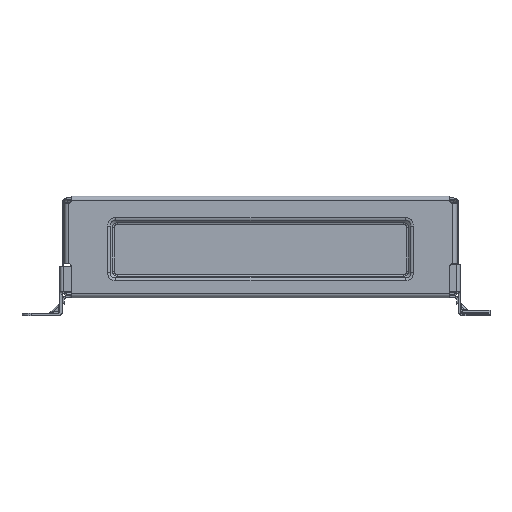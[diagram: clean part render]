
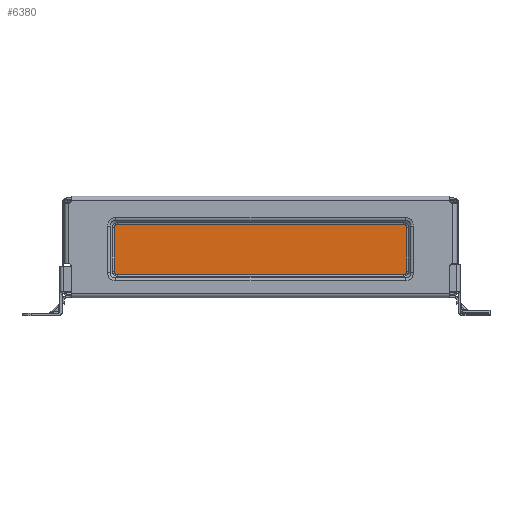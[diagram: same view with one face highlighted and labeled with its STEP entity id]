
A CAD part, front view. The second image highlights one B-rep face of the part: STEP entity #6380.
In plain terms, the highlighted planar face has unit normal (0, -1, 0).
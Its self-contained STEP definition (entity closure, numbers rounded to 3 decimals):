
#6368=AXIS2_PLACEMENT_3D('Plane Axis2P3D',#6365,#6366,#6367) ;
#5667=CARTESIAN_POINT('Vertex',(1413.221,-740.993,121.457)) ;
#5676=CARTESIAN_POINT('Vertex',(1095.777,-740.993,121.457)) ;
#5679=CARTESIAN_POINT('Line Origine',(1260.538,-740.993,121.457)) ;
#5753=CARTESIAN_POINT('Vertex',(1416.756,-740.993,117.922)) ;
#5757=CARTESIAN_POINT('Control Point',(1416.756,-740.993,117.922)) ;
#5758=CARTESIAN_POINT('Control Point',(1416.756,-740.993,118.577)) ;
#5759=CARTESIAN_POINT('Control Point',(1416.655,-740.993,119.215)) ;
#5760=CARTESIAN_POINT('Control Point',(1416.431,-740.993,119.815)) ;
#5761=CARTESIAN_POINT('Control Point',(1415.769,-740.993,120.726)) ;
#5762=CARTESIAN_POINT('Control Point',(1414.768,-740.993,121.247)) ;
#5763=CARTESIAN_POINT('Control Point',(1414.271,-740.993,121.391)) ;
#5764=CARTESIAN_POINT('Control Point',(1413.752,-740.993,121.457)) ;
#5765=CARTESIAN_POINT('Control Point',(1413.221,-740.993,121.457)) ;
#5785=CARTESIAN_POINT('Vertex',(1416.756,-740.993,69.478)) ;
#5788=CARTESIAN_POINT('Line Origine',(1416.756,-740.993,93.7)) ;
#5862=CARTESIAN_POINT('Vertex',(1413.221,-740.993,65.942)) ;
#5866=CARTESIAN_POINT('Control Point',(1413.221,-740.993,65.942)) ;
#5867=CARTESIAN_POINT('Control Point',(1413.876,-740.993,65.942)) ;
#5868=CARTESIAN_POINT('Control Point',(1414.514,-740.993,66.043)) ;
#5869=CARTESIAN_POINT('Control Point',(1415.114,-740.993,66.268)) ;
#5870=CARTESIAN_POINT('Control Point',(1416.025,-740.993,66.93)) ;
#5871=CARTESIAN_POINT('Control Point',(1416.546,-740.993,67.931)) ;
#5872=CARTESIAN_POINT('Control Point',(1416.69,-740.993,68.427)) ;
#5873=CARTESIAN_POINT('Control Point',(1416.756,-740.993,68.947)) ;
#5874=CARTESIAN_POINT('Control Point',(1416.756,-740.993,69.478)) ;
#5888=CARTESIAN_POINT('Line Origine',(1260.538,-740.993,65.942)) ;
#5892=CARTESIAN_POINT('Vertex',(1095.777,-740.993,65.942)) ;
#5963=CARTESIAN_POINT('Control Point',(1095.777,-740.993,65.942)) ;
#5964=CARTESIAN_POINT('Control Point',(1095.122,-740.993,65.942)) ;
#5965=CARTESIAN_POINT('Control Point',(1094.484,-740.993,66.043)) ;
#5966=CARTESIAN_POINT('Control Point',(1093.884,-740.993,66.268)) ;
#5967=CARTESIAN_POINT('Control Point',(1092.973,-740.993,66.93)) ;
#5968=CARTESIAN_POINT('Control Point',(1092.452,-740.993,67.931)) ;
#5969=CARTESIAN_POINT('Control Point',(1092.308,-740.993,68.427)) ;
#5970=CARTESIAN_POINT('Control Point',(1092.242,-740.993,68.947)) ;
#5971=CARTESIAN_POINT('Control Point',(1092.242,-740.993,69.478)) ;
#5972=CARTESIAN_POINT('Vertex',(1092.242,-740.993,69.478)) ;
#5995=CARTESIAN_POINT('Line Origine',(1092.242,-740.993,93.7)) ;
#5999=CARTESIAN_POINT('Vertex',(1092.242,-740.993,117.922)) ;
#6070=CARTESIAN_POINT('Control Point',(1092.242,-740.993,117.922)) ;
#6071=CARTESIAN_POINT('Control Point',(1092.242,-740.993,118.577)) ;
#6072=CARTESIAN_POINT('Control Point',(1092.343,-740.993,119.215)) ;
#6073=CARTESIAN_POINT('Control Point',(1092.567,-740.993,119.815)) ;
#6074=CARTESIAN_POINT('Control Point',(1093.229,-740.993,120.726)) ;
#6075=CARTESIAN_POINT('Control Point',(1094.23,-740.993,121.247)) ;
#6076=CARTESIAN_POINT('Control Point',(1094.727,-740.993,121.391)) ;
#6077=CARTESIAN_POINT('Control Point',(1095.246,-740.993,121.457)) ;
#6078=CARTESIAN_POINT('Control Point',(1095.777,-740.993,121.457)) ;
#6365=CARTESIAN_POINT('Axis2P3D Location',(1599.999,-740.992,-902.2)) ;
#5680=DIRECTION('Vector Direction',(1.,0.,0.)) ;
#5789=DIRECTION('Vector Direction',(0.,0.,1.)) ;
#5889=DIRECTION('Vector Direction',(-1.,0.,0.)) ;
#5996=DIRECTION('Vector Direction',(0.,0.,-1.)) ;
#6366=DIRECTION('Axis2P3D Direction',(0.,-1.,0.)) ;
#6367=DIRECTION('Axis2P3D XDirection',(1.,0.,0.)) ;
#5681=VECTOR('Line Direction',#5680,1.) ;
#5790=VECTOR('Line Direction',#5789,1.) ;
#5890=VECTOR('Line Direction',#5889,1.) ;
#5997=VECTOR('Line Direction',#5996,1.) ;
#6371=ORIENTED_EDGE('',*,*,#5683,.T.) ;
#6372=ORIENTED_EDGE('',*,*,#6079,.F.) ;
#6373=ORIENTED_EDGE('',*,*,#6001,.F.) ;
#6374=ORIENTED_EDGE('',*,*,#5974,.F.) ;
#6375=ORIENTED_EDGE('',*,*,#5894,.T.) ;
#6376=ORIENTED_EDGE('',*,*,#5875,.T.) ;
#6377=ORIENTED_EDGE('',*,*,#5792,.T.) ;
#6378=ORIENTED_EDGE('',*,*,#5766,.T.) ;
#6380=ADVANCED_FACE('interfacebiao.2\\\X2\51E04F554F53\X0\.75',(#6379),#6369,.T.) ;
#5756=B_SPLINE_CURVE_WITH_KNOTS('',5,(#5757,#5758,#5759,#5760,#5761,#5762,#5763,#5764,#5765),.UNSPECIFIED.,.F.,.U.,(6,3,6),(31.558,35.583,38.842),.UNSPECIFIED.) ;
#5865=B_SPLINE_CURVE_WITH_KNOTS('',5,(#5866,#5867,#5868,#5869,#5870,#5871,#5872,#5873,#5874),.UNSPECIFIED.,.F.,.U.,(6,3,6),(31.558,35.583,38.842),.UNSPECIFIED.) ;
#5962=B_SPLINE_CURVE_WITH_KNOTS('',5,(#5963,#5964,#5965,#5966,#5967,#5968,#5969,#5970,#5971),.UNSPECIFIED.,.F.,.U.,(6,3,6),(31.558,35.583,38.842),.UNSPECIFIED.) ;
#6069=B_SPLINE_CURVE_WITH_KNOTS('',5,(#6070,#6071,#6072,#6073,#6074,#6075,#6076,#6077,#6078),.UNSPECIFIED.,.F.,.U.,(6,3,6),(31.558,35.583,38.842),.UNSPECIFIED.) ;
#5683=EDGE_CURVE('',#5668,#5677,#5682,.F.) ;
#5766=EDGE_CURVE('',#5754,#5668,#5756,.T.) ;
#5792=EDGE_CURVE('',#5786,#5754,#5791,.T.) ;
#5875=EDGE_CURVE('',#5863,#5786,#5865,.T.) ;
#5894=EDGE_CURVE('',#5893,#5863,#5891,.F.) ;
#5974=EDGE_CURVE('',#5893,#5973,#5962,.T.) ;
#6001=EDGE_CURVE('',#5973,#6000,#5998,.F.) ;
#6079=EDGE_CURVE('',#6000,#5677,#6069,.T.) ;
#6370=EDGE_LOOP('',(#6371,#6372,#6373,#6374,#6375,#6376,#6377,#6378)) ;
#6379=FACE_OUTER_BOUND('',#6370,.T.) ;
#5682=LINE('Line',#5679,#5681) ;
#5791=LINE('Line',#5788,#5790) ;
#5891=LINE('Line',#5888,#5890) ;
#5998=LINE('Line',#5995,#5997) ;
#6369=PLANE('Plane',#6368) ;
#5668=VERTEX_POINT('',#5667) ;
#5677=VERTEX_POINT('',#5676) ;
#5754=VERTEX_POINT('',#5753) ;
#5786=VERTEX_POINT('',#5785) ;
#5863=VERTEX_POINT('',#5862) ;
#5893=VERTEX_POINT('',#5892) ;
#5973=VERTEX_POINT('',#5972) ;
#6000=VERTEX_POINT('',#5999) ;
